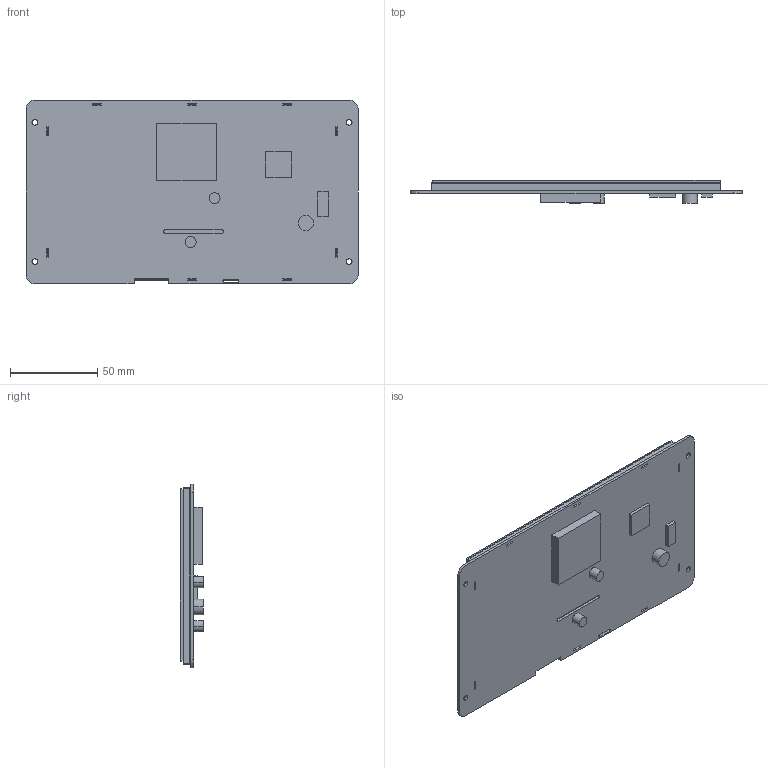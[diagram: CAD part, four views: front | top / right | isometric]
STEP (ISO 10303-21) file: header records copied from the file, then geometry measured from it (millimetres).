
FILE_DESCRIPTION((''),'2;1');
FILE_NAME('DMG10600C070-03WTC_ASM','2022-02-10T',('Administrator'),(''),'PRO/ENGINEER BY PARAMETRIC TECHNOLOGY CORPORATION, 2014320','PRO/ENGINEER BY PARAMETRIC TECHNOLOGY CORPORATION, 2014320','');
FILE_SCHEMA(('CONFIG_CONTROL_DESIGN','SHAPE_APPEARANCE_LAYERS_GROUPS'));
Length unit declared in the file: millimetre
Products named in the file (5): TK070011; COMWIN070HI213550408B; PCB; T4R-7-1-1A-BJDW; DMG10600C070-03WTC_ASM
Assembly tree (4 placements, depth 2):
  DMG10600C070-03WTC_ASM
    TK070011
    COMWIN070HI213550408B
    PCB
    T4R-7-1-1A-BJDW
Bounding box: 190.5 x 13.3 x 105.41 mm (x, y, z)
Volume: 118956.2 mm3; surface area: 121422.8 mm2
Topology: 4 solids, 4 shells, 179 faces, 462 edges, 308 vertices
Faces by surface type: plane 157, cylinder 22
Entity records: 5779 total; most frequent: CARTESIAN_POINT 958, ORIENTED_EDGE 924, DIRECTION 882, EDGE_CURVE 462, VECTOR 418, LINE 418, VERTEX_POINT 308, AXIS2_PLACEMENT_3D 232
